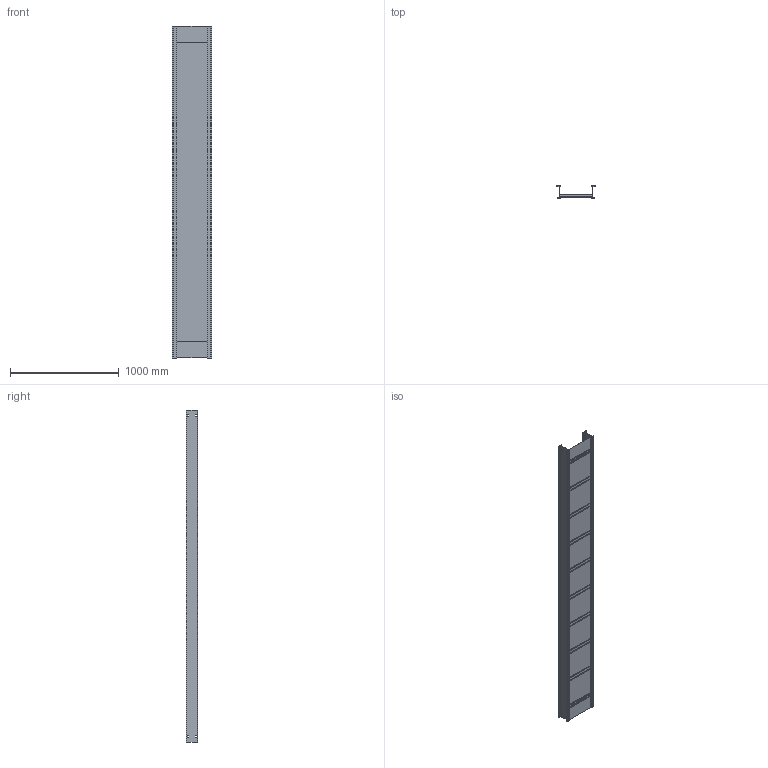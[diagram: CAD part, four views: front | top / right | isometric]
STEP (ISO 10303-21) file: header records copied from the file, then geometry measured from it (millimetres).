
FILE_DESCRIPTION((''),'2;1');
FILE_NAME('AH3412S120_ASM','2010-02-04T',('erouzier'),(''),'PRO/ENGINEER BY PARAMETRIC TECHNOLOGY CORPORATION, 2008510','PRO/ENGINEER BY PARAMETRIC TECHNOLOGY CORPORATION, 2008510','');
FILE_SCHEMA(('CONFIG_CONTROL_DESIGN'));
Length unit declared in the file: inch
Products named in the file (14): CDS001435-008_AF3; CDS001435-008_AF4; CDS002159L12_AF0; CDS002159L12_AF1; CDS002159L12_AF2; CDS002159L12_AF3; CDS002159L12_AF4; CDS002159L12_AF5; CDS002159L12_AF6; CDS002159L12_AF7; CDS002159L12_AF8; CDS002159L12_AF9; ED04587-019; AH3412S120_ASM
Assembly tree (13 placements, depth 2):
  AH3412S120_ASM
    CDS001435-008_AF3
    CDS001435-008_AF4
    CDS002159L12_AF0
    CDS002159L12_AF1
    CDS002159L12_AF2
    CDS002159L12_AF3
    CDS002159L12_AF4
    CDS002159L12_AF5
    CDS002159L12_AF6
    CDS002159L12_AF7
    CDS002159L12_AF8
    CDS002159L12_AF9
    ED04587-019
Bounding box: 365.76 x 105.21 x 3048 mm (x, y, z)
Volume: 3732711.1 mm3; surface area: 5648387.5 mm2
Topology: 13 solids, 14 shells, 383 faces, 1072 edges, 716 vertices
Faces by surface type: plane 269, cylinder 114
Entity records: 12657 total; most frequent: CARTESIAN_POINT 2198, ORIENTED_EDGE 2140, DIRECTION 2120, EDGE_CURVE 1072, VECTOR 844, LINE 844, VERTEX_POINT 716, AXIS2_PLACEMENT_3D 638
